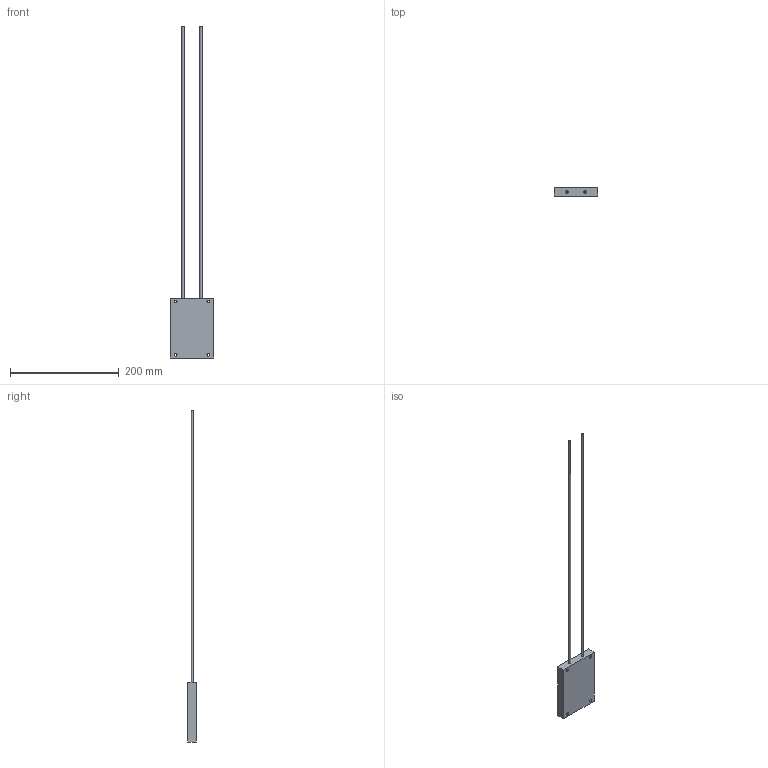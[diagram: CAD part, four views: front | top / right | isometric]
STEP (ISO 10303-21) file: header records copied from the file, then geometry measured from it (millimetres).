
FILE_DESCRIPTION(/* description */ (''),/* implementation_level */ '2;1');
FILE_NAME(/* name */ 'C:\_Vault\Dati\CATALOGO\RFD\RFD150.stp',/* time_stamp */ '2014-03-24T16:35:17+01:00',/* author */ ('stefano'),/* organization */ (''),/* preprocessor_version */ 'ST-DEVELOPER v15.2',/* originating_system */ 'Autodesk Inventor 2014',/* authorisation */ '');
FILE_SCHEMA (('AUTOMOTIVE_DESIGN { 1 0 10303 214 3 1 1 }'));
Length unit declared in the file: millimetre
Products named in the file (1): RFD150
Bounding box: 80 x 15 x 610.1 mm (x, y, z)
Volume: 143388.9 mm3; surface area: 36653 mm2
Topology: 1 solids, 1 shells, 18 faces, 40 edges, 28 vertices
Faces by surface type: plane 10, cylinder 8
Full cylindrical faces by diameter (mm): 2 x2, 4 x2, 5 x4
Entity records: 526 total; most frequent: DIRECTION 82, CARTESIAN_POINT 71, ORIENTED_EDGE 56, EDGE_LOOP 38, AXIS2_PLACEMENT_3D 35, EDGE_CURVE 28, FACE_BOUND 25, VERTEX_POINT 24
